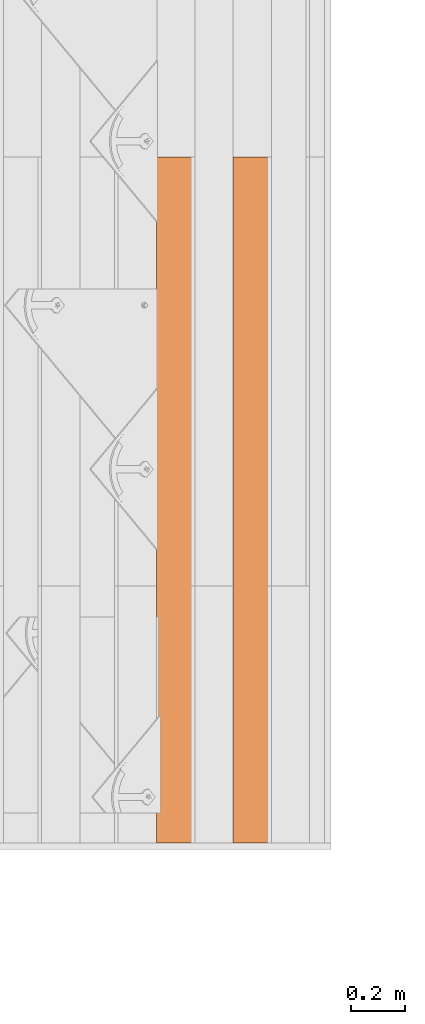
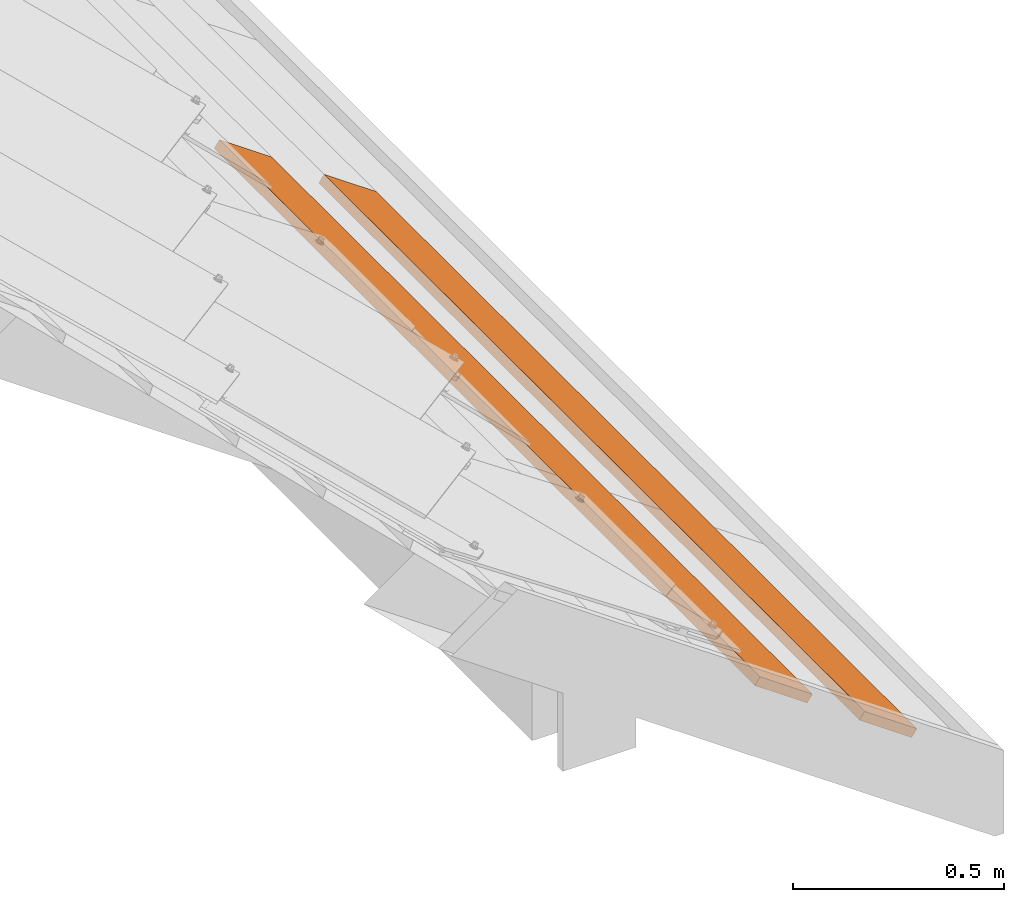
# One storey, part 100 of 151: 2 proxies, 1 element without a shape of its own.
"""IFC2X3 building model written with IfcOpenShell, lengths in millimetres."""

from ifc_helpers import new_model, entity, si_unit, converted_unit, derived_unit, direction, frame, frame_2d, origin, place, context, subcontext, project, spatial, rectangle, extrude, source, transform, mapped, material, type_object, type_shapes, element, aggregate, save


model = new_model("IFC2X3")

# Units and contexts
model_context = context("Model", 3, precision=0.01, world=origin(), true_north=direction((6.12303176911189e-17, 1.0)))
body_context = subcontext(model_context, "Body", "Model", "MODEL_VIEW")
ifc_project = project(units=[si_unit("LENGTHUNIT", "METRE", prefix="MILLI"), si_unit("AREAUNIT", "SQUARE_METRE"), si_unit("VOLUMEUNIT", "CUBIC_METRE"), converted_unit("PLANEANGLEUNIT", "DEGREE", entity("IfcRatioMeasure", 0.0174532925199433), si_unit("PLANEANGLEUNIT", "RADIAN"), dimensions=[0, 0, 0, 0, 0, 0, 0]), si_unit("MASSUNIT", "GRAM", prefix="KILO"), derived_unit("MASSDENSITYUNIT", [(si_unit("MASSUNIT", "GRAM", prefix="KILO"), 1), (si_unit("LENGTHUNIT", "METRE"), -3)]), si_unit("TIMEUNIT", "SECOND"), si_unit("FREQUENCYUNIT", "HERTZ"), si_unit("THERMODYNAMICTEMPERATUREUNIT", "DEGREE_CELSIUS"), derived_unit("THERMALTRANSMITTANCEUNIT", [(si_unit("MASSUNIT", "GRAM", prefix="KILO"), 1), (si_unit("THERMODYNAMICTEMPERATUREUNIT", "KELVIN"), -1), (si_unit("TIMEUNIT", "SECOND"), -3)]), derived_unit("VOLUMETRICFLOWRATEUNIT", [(si_unit("LENGTHUNIT", "METRE"), 3), (si_unit("TIMEUNIT", "SECOND"), -1)]), si_unit("ELECTRICCURRENTUNIT", "AMPERE"), si_unit("ELECTRICVOLTAGEUNIT", "VOLT"), si_unit("POWERUNIT", "WATT"), si_unit("FORCEUNIT", "NEWTON", prefix="KILO"), si_unit("ILLUMINANCEUNIT", "LUX"), si_unit("LUMINOUSFLUXUNIT", "LUMEN"), si_unit("LUMINOUSINTENSITYUNIT", "CANDELA"), derived_unit("USERDEFINED", [(si_unit("MASSUNIT", "GRAM", prefix="KILO"), -1), (si_unit("LENGTHUNIT", "METRE"), -2), (si_unit("TIMEUNIT", "SECOND"), 3), (si_unit("LUMINOUSFLUXUNIT", "LUMEN"), 1)]), derived_unit("LINEARVELOCITYUNIT", [(si_unit("LENGTHUNIT", "METRE"), 1), (si_unit("TIMEUNIT", "SECOND"), -1)]), si_unit("PRESSUREUNIT", "PASCAL"), derived_unit("USERDEFINED", [(si_unit("LENGTHUNIT", "METRE"), -2), (si_unit("MASSUNIT", "GRAM", prefix="KILO"), 1), (si_unit("TIMEUNIT", "SECOND"), -2)])], contexts=[model_context])

# Site, building, storey
site_placement = place(None, origin())
site = spatial("IfcSite", under=ifc_project, at=site_placement, Name="Default", CompositionType="ELEMENT")
building_placement = place(site_placement, origin())
building = spatial("IfcBuilding", under=site, at=building_placement, CompositionType="ELEMENT")
storey_placement = place(building_placement, origin())
storey = spatial("IfcBuildingStorey", under=building, at=storey_placement, Name="Level 1", CompositionType="ELEMENT", Elevation=0.0)

# Assembly, proxies
assembly_placement = place(storey_placement, origin())
assembly = element("IfcElementAssembly", 1, at=assembly_placement, inside=storey, Name="Structural Framing Assembly:Roof Construction Assembly", ObjectType="Structural Framing Assembly:Roof Construction Assembly", AssemblyPlace="NOTDEFINED", PredefinedType="USERDEFINED")
ifc_material = material(Name="Wood - Generic - Wood For Showcase")
building_element_proxy_type_1 = type_object("IfcBuildingElementProxyType", Name="Structural Framing 15", PredefinedType="NOTDEFINED", material=ifc_material)
shared_shape_1 = source(origin(), body_context, "Body", "SweptSolid", [
    extrude(rectangle(XDim=24.9999999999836, YDim=174.344679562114, at=frame_2d((3.73923114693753e-13, 6.3948846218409e-14), x_axis=(1.0, 0.0))), frame((1285.35601305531, 1437.09519417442, 2760.23940055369), z_axis=(0.0, 1.0, 0.0), x_axis=(0.573576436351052, 0.0, 0.819152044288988)), (0.0, 0.0, 1.0), 2558.45560797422),
])
type_shapes(building_element_proxy_type_1, [shared_shape_1])
proxy_1_placement = place(assembly_placement, frame((3342.22828661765, -8140.0, -2300.0)))
proxy_1 = element("IfcBuildingElementProxy", 2, at=proxy_1_placement, type_object=building_element_proxy_type_1, material=ifc_material, Name="Structural Framing 273:Structural Framing 15", ObjectType="Structural Framing 273:Structural Framing 15", context=body_context, shape_type="MappedRepresentation", body=[
    mapped(shared_shape_1, transform((0.0, 0.0, 0.0), scale=1.0)),
])
building_element_proxy_type_2 = type_object("IfcBuildingElementProxyType", Name="Structural Framing 15", PredefinedType="NOTDEFINED", material=ifc_material)
shared_shape_2 = source(origin(), body_context, "Body", "SweptSolid", [
    extrude(rectangle(XDim=24.9999999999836, YDim=174.344679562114, at=frame_2d((3.73923114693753e-13, 6.3948846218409e-14), x_axis=(1.0, 0.0))), frame((1285.35601305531, 1437.09519417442, 2760.23940055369), z_axis=(0.0, 1.0, 0.0), x_axis=(0.573576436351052, 0.0, 0.819152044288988)), (0.0, 0.0, 1.0), 2558.45560797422),
])
type_shapes(building_element_proxy_type_2, [shared_shape_2])
proxy_2_placement = place(assembly_placement, frame((3627.8578879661, -8140.0, -2500.0)))
proxy_2 = element("IfcBuildingElementProxy", 3, at=proxy_2_placement, type_object=building_element_proxy_type_2, material=ifc_material, Name="Structural Framing 283:Structural Framing 15", ObjectType="Structural Framing 283:Structural Framing 15", context=body_context, shape_type="MappedRepresentation", body=[
    mapped(shared_shape_2, transform((0.0, 0.0, 0.0), scale=1.0)),
])
aggregate(assembly, [proxy_1, proxy_2])

save(model, "model.ifc")
